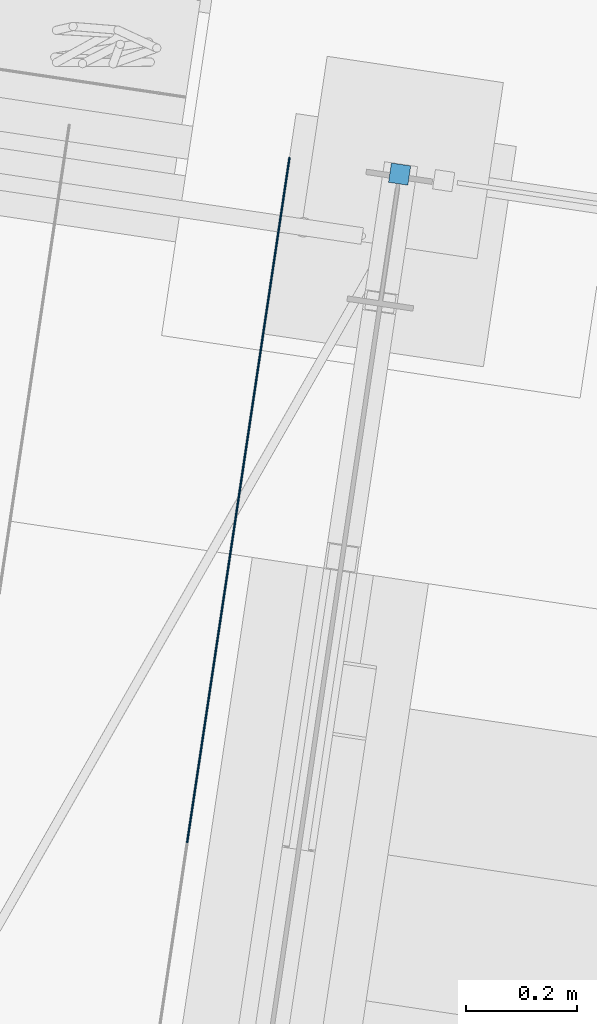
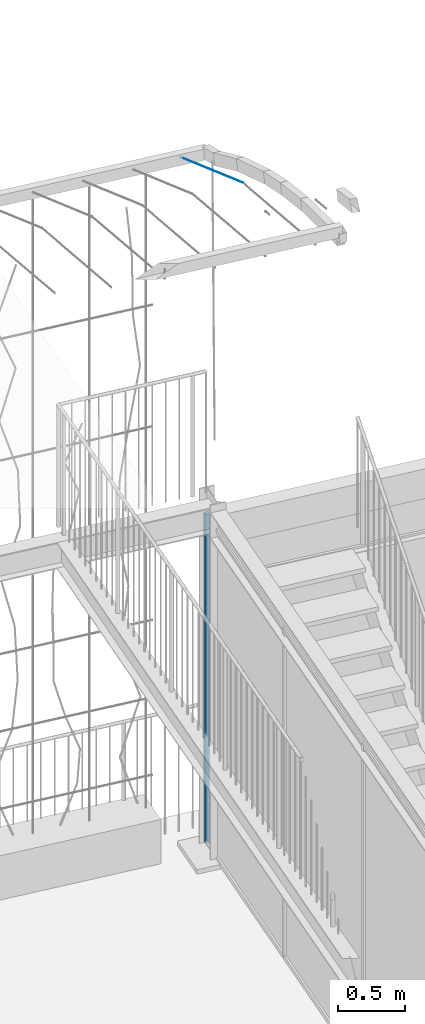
# One storey, part 48 of 143: 2 members, 1 element without a shape of its own.
"""IFC4 building model written with IfcOpenShell, lengths in metres."""

from ifc_helpers import new_model, si_unit, direction, frame, origin_with_axes, place, context, subcontext, project, spatial, rectangle, circle, extrude, material, material_profile, profile_set, profile_usage, type_object, element, aggregate, save


model = new_model("IFC4")

# Units and contexts
model_context = context("Model", 3, precision=1e-05, world=origin_with_axes(), true_north=direction((0.0, 1.0)))
body_context = subcontext(model_context, "Body", "Model", "MODEL_VIEW")
ifc_project = project(units=[si_unit("VOLUMEUNIT", "CUBIC_METRE"), si_unit("LENGTHUNIT", "METRE"), si_unit("AREAUNIT", "SQUARE_METRE")], contexts=[model_context])

# Site, building, storey
site_placement = place(None, origin_with_axes())
site = spatial("IfcSite", under=ifc_project, at=site_placement, Name="Lares · Rua das Mercês · artigo 4771")
building_placement = place(site_placement, frame((15.0, 9.7, 15.8), z_axis=(0.0, 0.0, 1.0), x_axis=(0.989015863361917, -0.147809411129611, 0.0)))
building = spatial("IfcBuilding", under=site, at=building_placement, Name="Casa Sobreposta")
storey_placement = place(building_placement, origin_with_axes())
storey = spatial("IfcBuildingStorey", under=building, at=storey_placement, Name="00 · Habitação e estacionamento", Elevation=15.8)

# Member
ifc_material_1 = material(Name="Aço pintado / Stahl lackiert", Category="steel")
ifc_material_profile_1 = material_profile(ifc_material_1, rectangle(XDim=0.035, YDim=0.035))
ifc_profile_set_1 = profile_set([ifc_material_profile_1], Name="R0.035")
ifc_profile_usage_1 = profile_usage(ifc_profile_set_1)
member_type_1 = type_object("IfcMemberType", Name="R0.035 / steel", PredefinedType="NOTDEFINED", material=ifc_profile_set_1)
member_1_placement = place(storey_placement, frame((0.0, 6.4, 0.0), z_axis=(0.0, 0.0, 1.0), x_axis=(1.0, 0.0, 0.0)))
element("IfcMember", 1, at=member_1_placement, inside=storey, type_object=member_type_1, material=ifc_profile_usage_1, Name="Fachada poente integralmente envidraçada · módulo 4 · montante", context=body_context, shape_type="SweptSolid", body=[
    extrude(rectangle(XDim=0.035, YDim=0.035), origin_with_axes(), (0.0, 0.0, 1.0), 2.968),
])

# Assembly, member
assembly_placement = place(storey_placement, origin_with_axes())
assembly = element("IfcElementAssembly", 2, at=assembly_placement, inside=storey, Name="Pérgola · prolongamento da estufa 6 m", ObjectType="PERGOLA_GREENHOUSE_EXTENSION", PredefinedType="USERDEFINED")
ifc_material_2 = material(Name="Aço galvanizado / Stahl verzinkt", Category="steel")
ifc_material_profile_2 = material_profile(ifc_material_2, circle(Radius=0.002))
ifc_profile_set_2 = profile_set([ifc_material_profile_2], Name="D0.004")
ifc_profile_usage_2 = profile_usage(ifc_profile_set_2)
member_type_2 = type_object("IfcMemberType", Name="D0.004 / galvanized", PredefinedType="NOTDEFINED", material=ifc_profile_set_2)
member_2_placement = place(assembly_placement, frame((-0.199999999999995, 5.15650506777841, 6.8157371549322), z_axis=(0.0, 0.905864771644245, -0.423567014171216), x_axis=(1.0, 0.0, 0.0)))
member_2 = element("IfcMember", 3, at=member_2_placement, type_object=member_type_2, material=ifc_profile_usage_2, Name="Pérgola · fio para trepadeiras", context=body_context, shape_type="SweptSolid", body=[
    extrude(circle(Radius=0.002), origin_with_axes(), (0.0, 0.0, 1.0), 1.3727158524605),
])
aggregate(assembly, [member_2])

save(model, "model.ifc")
